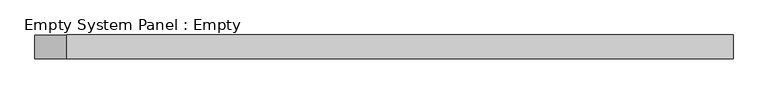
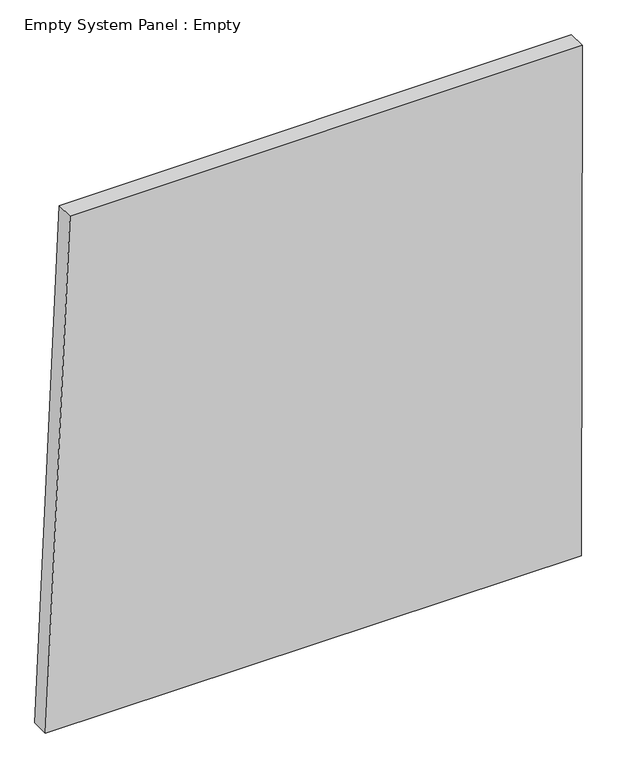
"""IFC4 building model written with IfcOpenShell, lengths in millimetres: plate geometry, Empty System Panel : Empty."""

import ifcopenshell
import ifcopenshell.guid

model = None  # the IFC model being written
_history = None  # IfcOwnerHistory: only IFC2X3 demands one
_inside = {}  # id of a spatial element -> (the spatial element, [elements in it])
_under = {}  # id of a project, library or spatial element -> (it, [spatial elements below it])
_declared = {}  # id of a project -> (the project, [libraries it declares])
_typed = {}  # id of a type object -> (the type object, [elements of that type])
_made_of = {}  # id of a material, layer set ... -> (it, [elements and type objects made of it])


def new_model(schema):
    """Start an empty IFC model of exactly this schema.

    Asked for "IFC4X3", IfcOpenShell would pick the latest addendum, in which some entities
    have other attributes; the version numbers below select the first issue.
    IFC2X3 requires an IfcOwnerHistory on every rooted entity: one is made here for all.
    """
    global model, _history
    if schema == "IFC4X3":
        model = ifcopenshell.file(schema_version=(4, 3, 0, 0))
    else:
        model = ifcopenshell.file(schema=schema)
    _inside.clear()
    _under.clear()
    _declared.clear()
    _typed.clear()
    _made_of.clear()
    _history = None
    if model.schema == "IFC2X3":
        org = make("IfcOrganization", Name="unknown")
        user = make(
            "IfcPersonAndOrganization",
            ThePerson=make("IfcPerson", FamilyName="unknown"),
            TheOrganization=org,
        )
        app = make(
            "IfcApplication",
            ApplicationDeveloper=org,
            Version="unknown",
            ApplicationFullName="unknown",
            ApplicationIdentifier="unknown",
        )
        _history = make(
            "IfcOwnerHistory",
            OwningUser=user,
            OwningApplication=app,
            ChangeAction="ADDED",
            CreationDate=0,
        )
    return model


def make(cls, **values):
    """One entity of the class cls with the attributes given. An attribute that is None is left unset."""
    return model.create_entity(
        cls, **{name: value for name, value in values.items() if value is not None}
    )


def rooted(cls, **values):
    """An entity with a GlobalId (a new one), such as an element, a storey or a relation."""
    return make(cls, GlobalId=ifcopenshell.guid.new(), OwnerHistory=_history, **values)


def si_unit(unit_type, name, prefix=None):
    """IfcSIUnit, for example si_unit("LENGTHUNIT", "METRE", prefix="MILLI")."""
    return make("IfcSIUnit", UnitType=unit_type, Prefix=prefix, Name=name)


def assignment(units):
    """IfcUnitAssignment: the units of a project."""
    return None if units is None else make("IfcUnitAssignment", Units=units)


def point(xyz):
    """IfcCartesianPoint."""
    return None if xyz is None else make("IfcCartesianPoint", Coordinates=xyz)


def direction(xyz):
    """IfcDirection."""
    return None if xyz is None else make("IfcDirection", DirectionRatios=xyz)


def frame(location, z_axis=None, x_axis=None):
    """IfcAxis2Placement3D, a coordinate frame: its origin and axes. An axis left out is left unset."""
    return make(
        "IfcAxis2Placement3D",
        Location=point(location),
        Axis=direction(z_axis),
        RefDirection=direction(x_axis),
    )


def origin():
    """The frame at (0, 0, 0) with its axes left unset."""
    return frame((0.0, 0.0, 0.0))


def place(relative_to, where):
    """IfcLocalPlacement: puts the frame where relative to a parent placement (None: the world)."""
    return make(
        "IfcLocalPlacement", PlacementRelTo=relative_to, RelativePlacement=where
    )


def context(
    kind, dimensions, precision=None, world=None, true_north=None, identifier=None
):
    """IfcGeometricRepresentationContext, for example the 3D "Model" context."""
    return make(
        "IfcGeometricRepresentationContext",
        ContextIdentifier=identifier,
        ContextType=kind,
        CoordinateSpaceDimension=dimensions,
        Precision=precision,
        WorldCoordinateSystem=world,
        TrueNorth=true_north,
    )


def project(units=None, contexts=None):
    """IfcProject with its units and contexts."""
    return rooted(
        "IfcProject",
        Name="project",
        RepresentationContexts=contexts,
        UnitsInContext=assignment(units),
    )


def spatial(cls, under=None, at=None, **own):
    """A site, building, storey or space (cls), placed at a placement, below another one or the project."""
    s = rooted(cls, ObjectPlacement=at, **own)
    if under is not None:
        _under.setdefault(under.id(), (under, []))[1].append(s)
    return s


def polyline(points):
    """IfcPolyline through the points."""
    return make("IfcPolyline", Points=[point(p) for p in points])


def outline(outer, holes=None, kind="AREA"):
    """IfcArbitraryClosedProfileDef: a profile drawn as a closed curve; with holes, ...WithVoids."""
    if holes is None:
        return make("IfcArbitraryClosedProfileDef", ProfileType=kind, OuterCurve=outer)
    return make(
        "IfcArbitraryProfileDefWithVoids",
        ProfileType=kind,
        OuterCurve=outer,
        InnerCurves=holes,
    )


def extrude(swept, where, along, depth):
    """IfcExtrudedAreaSolid: the profile swept, set in the frame where, extruded along a direction by depth."""
    return make(
        "IfcExtrudedAreaSolid",
        SweptArea=swept,
        Position=where,
        ExtrudedDirection=direction(along),
        Depth=depth,
    )


def shape(context_of_items, identifier, shape_type, items):
    """IfcShapeRepresentation: the items that make up one representation, for example the "Body"."""
    return make(
        "IfcShapeRepresentation",
        ContextOfItems=context_of_items,
        RepresentationIdentifier=identifier,
        RepresentationType=shape_type,
        Items=items,
    )


def source(mapping_origin, context_of_items, identifier, shape_type, items):
    """IfcRepresentationMap: a shape defined once, which mapped items show again and again."""
    return make(
        "IfcRepresentationMap",
        MappingOrigin=mapping_origin,
        MappedRepresentation=shape(context_of_items, identifier, shape_type, items),
    )


def transform(
    local_origin,
    x_axis=None,
    y_axis=None,
    z_axis=None,
    scale=None,
    scale2=None,
    scale3=None,
    uniform=True,
):
    """IfcCartesianTransformationOperator3D, or its non-uniform kind. x_axis, y_axis, z_axis: its Axis1, 2, 3."""
    if uniform:
        return make(
            "IfcCartesianTransformationOperator3D",
            Axis1=direction(x_axis),
            Axis2=direction(y_axis),
            LocalOrigin=point(local_origin),
            Scale=scale,
            Axis3=direction(z_axis),
        )
    return make(
        "IfcCartesianTransformationOperator3DnonUniform",
        Axis1=direction(x_axis),
        Axis2=direction(y_axis),
        LocalOrigin=point(local_origin),
        Scale=scale,
        Axis3=direction(z_axis),
        Scale2=scale2,
        Scale3=scale3,
    )


def mapped(mapping_source, mapping_target):
    """IfcMappedItem: shows the shape of a source again, moved by a transform."""
    return make(
        "IfcMappedItem", MappingSource=mapping_source, MappingTarget=mapping_target
    )


def made_of(thing, what):
    """Note that an element or type object is made of a material, layer set ...; save() writes the relation."""
    if what is not None:
        _made_of.setdefault(what.id(), (what, []))[1].append(thing)
    return thing


def element(
    cls,
    number,
    at=None,
    inside=None,
    cuts=None,
    type_object=None,
    material=None,
    context=None,
    identifier="Body",
    shape_type=None,
    held_by="IfcProductDefinitionShape",
    body=None,
    shapes=None,
    **own,
):
    """One element of the class cls, such as IfcWall. Its Tag is "e" and its number.

    at: its placement. inside: the storey or other place that contains it. cuts: it is an
    opening in that element (IfcRelVoidsElement). A single representation is given by context,
    identifier, shape_type and body (its items); several are given by shapes. held_by: the class
    of the entity that holds the representations. save() writes the other relations.
    """
    e = rooted(cls, Tag="e%d" % number, ObjectPlacement=at, **own)
    if body is not None:
        shapes = [shape(context, identifier, shape_type, body)]
    if shapes is not None:
        e.Representation = make(held_by, Representations=shapes)
    if inside is not None:
        _inside.setdefault(inside.id(), (inside, []))[1].append(e)
    if cuts is not None:
        rooted(
            "IfcRelVoidsElement", RelatingBuildingElement=cuts, RelatedOpeningElement=e
        )
    if type_object is not None:
        _typed.setdefault(type_object.id(), (type_object, []))[1].append(e)
    return made_of(e, material)


def aggregate(whole, parts):
    """IfcRelAggregates: a whole, such as a stair, and the parts it consists of."""
    return rooted("IfcRelAggregates", RelatingObject=whole, RelatedObjects=parts)


def save(model, path):
    """Write the relations noted so far, then the file.

    IfcRelAggregates (storeys below a building ...), IfcRelContainedInSpatialStructure (elements
    in a storey), IfcRelDefinesByType, IfcRelAssociatesMaterial and IfcRelDeclares: one each for
    every whole, place, type object, material and project.
    """
    for whole, parts in _under.values():
        aggregate(whole, parts)
    for where, things in _inside.values():
        rooted(
            "IfcRelContainedInSpatialStructure",
            RelatedElements=things,
            RelatingStructure=where,
        )
    for kind, things in _typed.values():
        rooted("IfcRelDefinesByType", RelatedObjects=things, RelatingType=kind)
    for what, things in _made_of.values():
        rooted("IfcRelAssociatesMaterial", RelatedObjects=things, RelatingMaterial=what)
    for by, libraries in _declared.values():
        rooted("IfcRelDeclares", RelatingContext=by, RelatedDefinitions=libraries)
    model.write(path)


def empty_system_panel_empty_22fa4f6f(model_context):
    return source(origin(), model_context, "Body", "SweptSolid", [
        extrude(outline(polyline([(0.0, -1487.4481154), (0.0, 1483.2189764), (2985.8457235, 1487.4481154), (2978.3430499, -1351.6966064), (0.0, -1487.4481154)])), frame((0.0, -50.8, 0.0), z_axis=(0.0, 1.0, 0.0), x_axis=(0.0, 0.0, 1.0)), (0.0, 0.0, 1.0), 101.6),
    ])


if __name__ == "__main__":
    model = new_model("IFC4")
    model_context = context("Model", 3, world=origin())
    ifc_project = project(units=[si_unit("LENGTHUNIT", "METRE", prefix="MILLI")], contexts=[model_context])
    site = spatial("IfcSite", under=ifc_project)
    building = spatial("IfcBuilding", under=site)
    placement = place(None, origin())
    empty_system_panel_empty_shape = empty_system_panel_empty_22fa4f6f(model_context)
    element("IfcPlate", 1, ObjectType="Empty System Panel : Empty", at=placement, inside=building, context=model_context, shape_type="MappedRepresentation", body=[
        mapped(empty_system_panel_empty_shape, transform((0.0, 0.0, 0.0), x_axis=(1.0, 0.0, 0.0), y_axis=(0.0, 1.0, 0.0), z_axis=(0.0, 0.0, 1.0))),
    ])
    save(model, "model.ifc")
